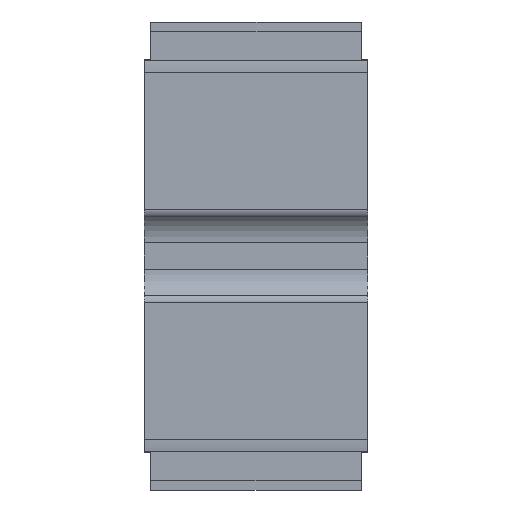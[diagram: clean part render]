
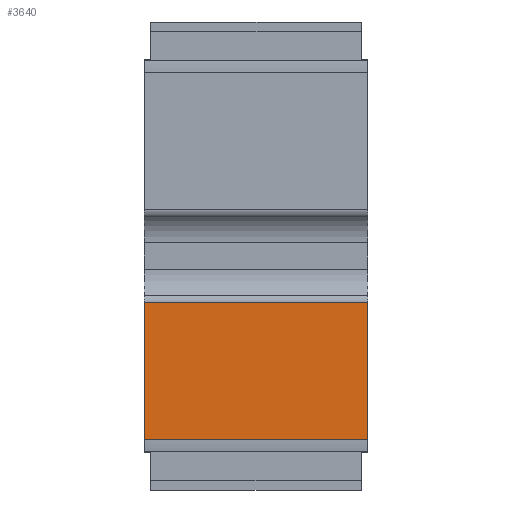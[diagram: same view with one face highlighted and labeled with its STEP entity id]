
A CAD part, front view. The second image highlights one B-rep face of the part: STEP entity #3640.
In plain terms, the highlighted planar face has unit normal (0, -1, 0) as drawn and (0, 1, 0) by its records, which use the part's own axes.
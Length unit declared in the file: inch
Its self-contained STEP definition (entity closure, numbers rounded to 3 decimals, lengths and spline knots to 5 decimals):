
#113 = VECTOR ( 'NONE', #1029, 39.37008 ) ;
#646 = EDGE_LOOP ( 'NONE', ( #3398, #4818, #4658, #4509 ) ) ;
#858 = LINE ( 'NONE', #6498, #2015 ) ;
#1029 = DIRECTION ( 'NONE',  ( -1., 0., 0. ) ) ;
#1290 = FACE_OUTER_BOUND ( 'NONE', #646, .T. ) ;
#1309 = AXIS2_PLACEMENT_3D ( 'NONE', #1877, #2842, #5948 ) ;
#1327 = VERTEX_POINT ( 'NONE', #6610 ) ;
#1877 = CARTESIAN_POINT ( 'NONE',  ( 0., 0.001, 0. ) ) ;
#2015 = VECTOR ( 'NONE', #3491, 39.37008 ) ;
#2717 = VECTOR ( 'NONE', #3288, 39.37008 ) ;
#2842 = DIRECTION ( 'NONE',  ( 0., -1., 0. ) ) ;
#2968 = CARTESIAN_POINT ( 'NONE',  ( -0.06, 0.001, -0.0985 ) ) ;
#3089 = EDGE_CURVE ( 'NONE', #1327, #5885, #3828, .T. ) ;
#3191 = VECTOR ( 'NONE', #5486, 39.37008 ) ;
#3288 = DIRECTION ( 'NONE',  ( 0., 0., -1. ) ) ;
#3351 = PLANE ( 'NONE',  #1309 ) ;
#3398 = ORIENTED_EDGE ( 'NONE', *, *, #3888, .T. ) ;
#3491 = DIRECTION ( 'NONE',  ( 0., 0., 1. ) ) ;
#3521 = CARTESIAN_POINT ( 'NONE',  ( 0.06, 0.001, -0.025 ) ) ;
#3640 = ADVANCED_FACE ( 'NONE', ( #1290 ), #3351, .F. ) ;
#3780 = VERTEX_POINT ( 'NONE', #2968 ) ;
#3828 = LINE ( 'NONE', #5374, #2717 ) ;
#3888 = EDGE_CURVE ( 'NONE', #5885, #3780, #5221, .T. ) ;
#3946 = VERTEX_POINT ( 'NONE', #4891 ) ;
#4509 = ORIENTED_EDGE ( 'NONE', *, *, #3089, .T. ) ;
#4541 = EDGE_CURVE ( 'NONE', #1327, #3946, #6462, .T. ) ;
#4552 = EDGE_CURVE ( 'NONE', #3780, #3946, #858, .T. ) ;
#4658 = ORIENTED_EDGE ( 'NONE', *, *, #4541, .F. ) ;
#4818 = ORIENTED_EDGE ( 'NONE', *, *, #4552, .T. ) ;
#4891 = CARTESIAN_POINT ( 'NONE',  ( -0.06, 0.001, -0.025 ) ) ;
#5221 = LINE ( 'NONE', #5657, #113 ) ;
#5310 = CARTESIAN_POINT ( 'NONE',  ( 0.06, 0.001, -0.0985 ) ) ;
#5374 = CARTESIAN_POINT ( 'NONE',  ( 0.06, 0.001, 0.105 ) ) ;
#5486 = DIRECTION ( 'NONE',  ( -1., 0., 0. ) ) ;
#5657 = CARTESIAN_POINT ( 'NONE',  ( 0.06, 0.001, -0.0985 ) ) ;
#5885 = VERTEX_POINT ( 'NONE', #5310 ) ;
#5948 = DIRECTION ( 'NONE',  ( 0., 0., -1. ) ) ;
#6462 = LINE ( 'NONE', #3521, #3191 ) ;
#6498 = CARTESIAN_POINT ( 'NONE',  ( -0.06, 0.001, 0.105 ) ) ;
#6610 = CARTESIAN_POINT ( 'NONE',  ( 0.06, 0.001, -0.025 ) ) ;
